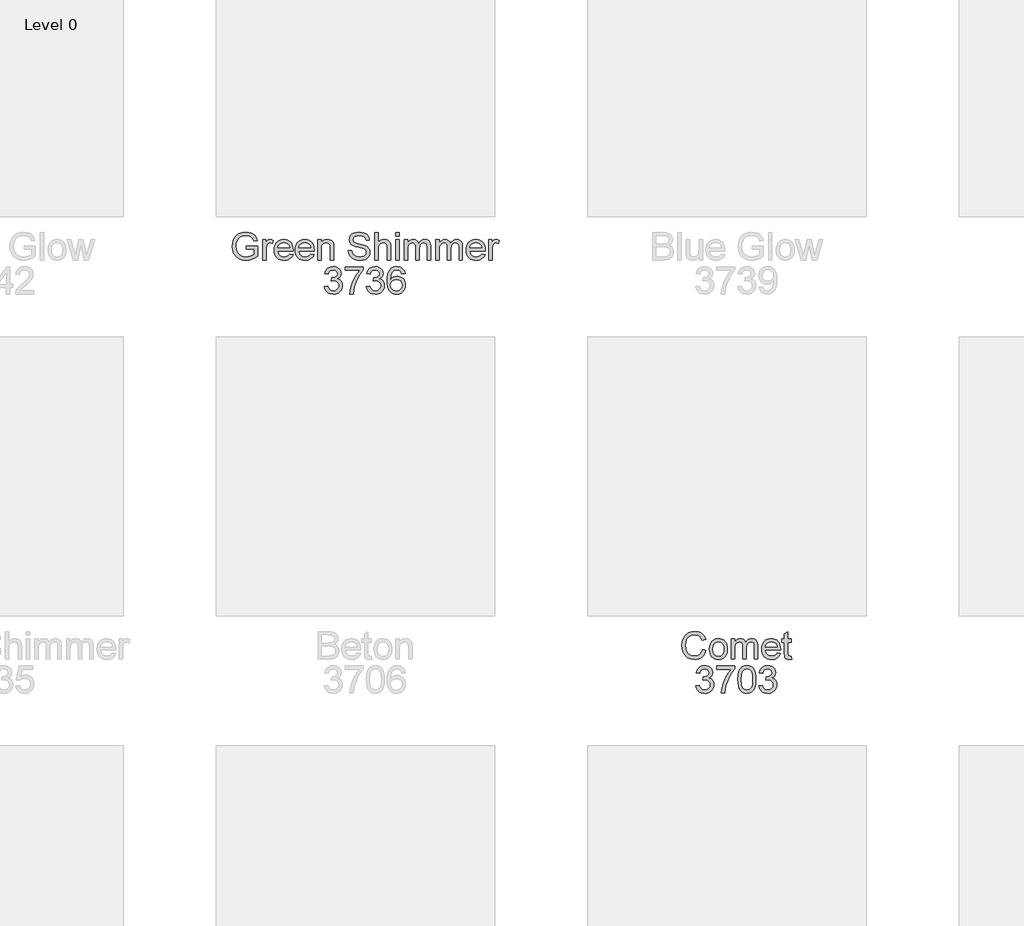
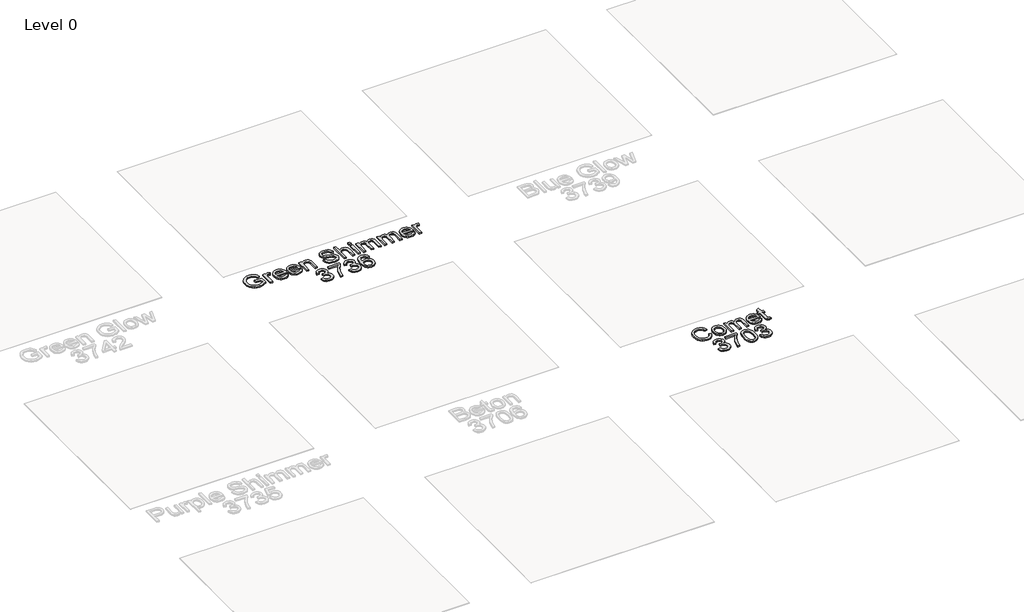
# One storey, part 10 of 14: 2 proxies.
"""IFC4 building model written with IfcOpenShell, lengths in millimetres."""

from ifc_helpers import new_model, si_unit, origin, origin_with_axes, place, context, project, spatial, polyline, outline, extrude, element, save

model = new_model("IFC4")

# Units and contexts
model_context = context("Model", 3, world=origin())
ifc_project = project(units=[si_unit("LENGTHUNIT", "METRE", prefix="MILLI")], contexts=[model_context])

# Site, building, storey
site = spatial("IfcSite", under=ifc_project)
building = spatial("IfcBuilding", under=site)
storey = spatial("IfcBuildingStorey", under=building, Name="Level 0", Elevation=0.0)

# Proxies
placement = place(None, origin())
element("IfcBuildingElementProxy", 1, Name="300mm Arial", ObjectType="300mm Arial", at=placement, inside=storey, context=model_context, shape_type="SweptSolid", body=[
    extrude(outline(polyline([(-1126.1906494, -2021.7884025), (-1126.1906494, -1984.8653255), (-1006.1906494, -1984.8653255), (-1006.1906494, -2095.2739794), (-1035.3523081, -2115.5564313), (-1065.4334379, -2130.1057102), (-1096.3619235, -2138.8677294), (-1128.0656494, -2141.7884025), (-1169.4869235, -2137.1459746), (-1206.9238225, -2123.2186909), (-1238.0235821, -2100.4933304), (-1260.4334379, -2069.4566717), (-1273.9821158, -2032.2271044), (-1278.4983417, -1990.9230179), (-1274.0001446, -1949.3214554), (-1260.5055533, -1910.6225371), (-1238.5734619, -1878.1615996), (-1208.7627648, -1855.2739794), (-1172.4526687, -1841.6982582), (-1131.0223802, -1837.1730179), (-1100.6077167, -1839.796215), (-1073.2579571, -1847.6658063), (-1050.2261062, -1860.2138832), (-1032.7651687, -1876.8725371), (-1019.8475004, -1898.4440515), (-1010.4454571, -1925.7307102), (-1044.4839187, -1935.3220563), (-1052.0830773, -1915.8599169), (-1061.322861, -1901.1754217), (-1073.5464187, -1890.1057102), (-1090.0968994, -1881.4879217), (-1109.8294715, -1875.9440515), (-1131.5993033, -1874.0960948), (-1157.0830773, -1876.0882823), (-1178.8709379, -1882.0648448), (-1196.8817552, -1891.2775852), (-1211.0343994, -1902.9783063), (-1230.0368033, -1931.4278255), (-1238.6906494, -1959.3004217), (-1241.5752648, -1989.4085948), (-1238.1047119, -2024.71809), (-1227.6930533, -2053.7715755), (-1210.6557937, -2076.3617198), (-1187.3084379, -2092.2811909), (-1159.9857215, -2101.7192919), (-1131.0223802, -2104.8653255), (-1105.4484619, -2102.4945323), (-1080.5055533, -2095.3821525), (-1058.8438946, -2085.5834746), (-1043.1137264, -2075.1537871), (-1043.1137264, -2021.7884025), (-1126.1906494, -2021.7884025)])), origin_with_axes(), (0.0, 0.0, 1.0), 20.0),
    extrude(outline(polyline([(-950.806034, -2137.1730179), (-950.806034, -1920.2499409), (-918.4983417, -1920.2499409), (-918.4983417, -1952.3412871), (-906.5632456, -1933.7355179), (-895.5656494, -1922.7739794), (-884.5319956, -1917.4194121), (-872.4887264, -1915.6345563), (-854.0993033, -1918.483114), (-835.4214187, -1927.0287871), (-847.7531494, -1960.1297486), (-860.7339187, -1954.4506621), (-873.7146879, -1952.5576332), (-884.7393273, -1954.3785467), (-894.5920917, -1959.8412871), (-902.5518273, -1968.5311909), (-907.8973802, -1980.0335948), (-912.3865629, -2000.6585948), (-913.8829571, -2023.1585948), (-913.8829571, -2137.1730179), (-950.806034, -2137.1730179)])), origin_with_axes(), (0.0, 0.0, 1.0), 20.0),
    extrude(outline(polyline([(-660.4694956, -2072.5576332), (-624.2675725, -2077.1730179), (-637.3114427, -2104.4506621), (-658.1257456, -2124.8412871), (-686.2417312, -2137.5516236), (-721.1906494, -2141.7884025), (-744.1008057, -2139.9607282), (-764.5139667, -2134.4777054), (-782.4301326, -2125.339334), (-797.8493033, -2112.545614), (-810.2486422, -2096.4526152), (-819.1053129, -2077.4164073), (-824.4193153, -2055.4369902), (-826.1906494, -2030.514364), (-824.4012864, -2004.7466356), (-819.0331975, -1982.0347967), (-810.0863826, -1962.3788472), (-797.5608417, -1945.7787871), (-782.182236, -1932.5906861), (-764.6762264, -1923.170614), (-745.0428129, -1917.5185707), (-723.2819956, -1915.6345563), (-702.2220497, -1917.5140635), (-683.1768273, -1923.1525852), (-666.1463285, -1932.5501212), (-651.1305533, -1945.7066717), (-638.8731915, -1962.2706741), (-630.1179331, -1981.8905659), (-624.864778, -2004.5663472), (-623.1137264, -2030.2980179), (-623.3300725, -2040.2499409), (-789.2675725, -2040.2499409), (-782.8763465, -2067.8881621), (-768.0295917, -2088.2066717), (-746.6023081, -2100.7006621), (-720.4694956, -2104.8653255), (-700.8180533, -2102.936239), (-684.2675725, -2097.1489794), (-670.8180533, -2087.1429698), (-660.4694956, -2072.5576332)]), holes=[polyline([(-789.2675725, -2003.326864), (-660.0368033, -2003.326864), (-665.0307937, -1983.8196525), (-674.8204571, -1969.8653255), (-696.3468994, -1956.8845563), (-723.4262264, -1952.5576332), (-748.3150485, -1956.0101573), (-768.8949764, -1966.3677294), (-783.2008658, -1982.5125611), (-789.2675725, -2003.326864)])]), origin_with_axes(), (0.0, 0.0, 1.0), 20.0),
    extrude(outline(polyline([(-434.3156494, -2072.5576332), (-398.1137264, -2077.1730179), (-411.1575965, -2104.4506621), (-431.9718994, -2124.8412871), (-460.087885, -2137.5516236), (-495.0368033, -2141.7884025), (-517.9469595, -2139.9607282), (-538.3601206, -2134.4777054), (-556.2762864, -2125.339334), (-571.6954571, -2112.545614), (-584.0947961, -2096.4526152), (-592.9514667, -2077.4164073), (-598.2654691, -2055.4369902), (-600.0368033, -2030.514364), (-598.2474403, -2004.7466356), (-592.8793514, -1982.0347967), (-583.9325364, -1962.3788472), (-571.4069956, -1945.7787871), (-556.0283898, -1932.5906861), (-538.5223802, -1923.170614), (-518.8889667, -1917.5185707), (-497.1281494, -1915.6345563), (-476.0682035, -1917.5140635), (-457.0229812, -1923.1525852), (-439.9924824, -1932.5501212), (-424.9767071, -1945.7066717), (-412.7193453, -1962.2706741), (-403.9640869, -1981.8905659), (-398.7109319, -2004.5663472), (-396.9598802, -2030.2980179), (-397.1762264, -2040.2499409), (-563.1137264, -2040.2499409), (-556.7225004, -2067.8881621), (-541.8757456, -2088.2066717), (-520.4484619, -2100.7006621), (-494.3156494, -2104.8653255), (-474.6642071, -2102.936239), (-458.1137264, -2097.1489794), (-444.6642071, -2087.1429698), (-434.3156494, -2072.5576332)]), holes=[polyline([(-563.1137264, -2003.326864), (-433.8829571, -2003.326864), (-438.8769475, -1983.8196525), (-448.666611, -1969.8653255), (-470.1930533, -1956.8845563), (-497.2723802, -1952.5576332), (-522.1612023, -1956.0101573), (-542.7411302, -1966.3677294), (-557.0470196, -1982.5125611), (-563.1137264, -2003.326864)])]), origin_with_axes(), (0.0, 0.0, 1.0), 20.0),
    extrude(outline(polyline([(-360.0368033, -2137.1730179), (-360.0368033, -1920.2499409), (-323.1137264, -1920.2499409), (-323.1137264, -1950.5384025), (-310.2862023, -1935.2679698), (-294.8805533, -1924.3605179), (-276.8967792, -1917.8160467), (-256.3348802, -1915.6345563), (-238.13476, -1917.3923688), (-221.4670917, -1922.6658063), (-207.5668514, -1930.7968159), (-197.6690148, -1941.1273448), (-186.5993033, -1968.2787871), (-184.6521879, -2003.9759025), (-184.6521879, -2137.1730179), (-221.5752648, -2137.1730179), (-221.5752648, -2008.951864), (-225.8300725, -1976.2835948), (-231.7164908, -1966.5570323), (-240.8661302, -1959.0119602), (-252.5938946, -1954.171215), (-266.2146879, -1952.5576332), (-287.8402889, -1956.1814313), (-306.274784, -1967.0528255), (-313.6418213, -1975.9275251), (-318.9039908, -1988.0564313), (-323.1137264, -2022.076864), (-323.1137264, -2137.1730179), (-360.0368033, -2137.1730179)])), origin_with_axes(), (0.0, 0.0, 1.0), 20.0),
    extrude(outline(polyline([(-27.729111, -2035.6345563), (9.193966, -2035.6345563), (13.4307448, -2056.12434), (21.0930044, -2072.5936909), (33.0461294, -2085.6646044), (50.1555044, -2095.9590755), (71.068966, -2102.638763), (94.4343506, -2104.8653255), (115.005264, -2103.1796284), (133.0160813, -2098.1225371), (147.6104323, -2090.1177294), (157.9319467, -2079.5888832), (164.0707688, -2067.5005419), (166.1170429, -2054.8172486), (164.584591, -2042.4584746), (159.9872352, -2031.7763832), (150.6482929, -2022.6628015), (134.8910813, -2015.0095563), (81.1290621, -2000.9109986), (45.8375958, -1991.5810707), (23.256466, -1982.701864), (4.8760573, -1970.279989), (-8.149784, -1955.2259025), (-15.9112023, -1937.8641236), (-18.4983417, -1918.5191717), (-15.2982215, -1896.8935707), (-5.697861, -1876.7283063), (10.0503361, -1859.6369602), (31.693966, -1847.233114), (57.6735333, -1839.6880419), (86.4295429, -1837.1730179), (117.583389, -1839.8052294), (144.8430044, -1847.701864), (167.2348313, -1860.7006621), (183.7853121, -1878.639364), (194.2600717, -1900.4001813), (198.4247352, -1924.8653255), (161.5016583, -1924.8653255), (154.7228121, -1902.8340755), (140.5881967, -1886.9326332), (118.5028602, -1877.3052294), (87.8718506, -1874.0960948), (56.5196871, -1877.2691717), (35.0112736, -1886.7884025), (22.5713698, -1900.7968159), (18.4247352, -1917.4374409), (21.3634371, -1931.6261429), (30.1795429, -1943.0384025), (51.020889, -1953.2427294), (90.4680044, -1963.6634025), (155.8045429, -1982.1970563), (176.8532208, -1995.592489), (191.537716, -2012.1249409), (200.1645188, -2031.6141236), (203.0401198, -2053.8797486), (199.7318265, -2076.6411669), (189.8069467, -2098.0504217), (173.6711294, -2116.4759025), (151.7300236, -2130.2859986), (125.3448073, -2138.9128015), (95.8766583, -2141.7884025), (59.7017785, -2138.6874409), (29.927139, -2129.3845563), (6.2101919, -2113.8436909), (-11.791611, -2092.0287871), (-23.3481014, -2065.4542679), (-27.729111, -2035.6345563)])), origin_with_axes(), (0.0, 0.0, 1.0), 20.0),
    extrude(outline(polyline([(253.8093506, -2137.1730179), (253.8093506, -1841.7884025), (290.7324275, -1841.7884025), (290.7324275, -1950.3941717), (304.294627, -1935.18684), (319.5244948, -1924.3244602), (336.4220309, -1917.8070323), (354.9872352, -1915.6345563), (377.2889179, -1918.0053496), (396.4535813, -1925.1177294), (411.5437256, -1936.4128015), (421.6218506, -1951.3316717), (427.3009371, -1971.8304698), (429.193966, -1999.8653255), (429.193966, -2137.1730179), (392.270889, -2137.1730179), (392.270889, -2003.6874409), (389.3321871, -1980.5744602), (380.5160813, -1964.7451332), (366.3093506, -1955.6045082), (347.1987736, -1952.5576332), (331.5948073, -1954.6129217), (316.9463698, -1960.7787871), (304.8129563, -1970.4602775), (296.7540621, -1983.0624409), (292.2378361, -1999.811239), (290.7324275, -2021.9326332), (290.7324275, -2137.1730179), (253.8093506, -2137.1730179)])), origin_with_axes(), (0.0, 0.0, 1.0), 20.0),
    extrude(outline(polyline([(479.9631967, -1878.7114794), (479.9631967, -1841.7884025), (516.8862736, -1841.7884025), (516.8862736, -1878.7114794), (479.9631967, -1878.7114794)])), origin_with_axes(), (0.0, 0.0, 1.0), 20.0),
    extrude(outline(polyline([(479.9631967, -2137.1730179), (479.9631967, -1920.2499409), (516.8862736, -1920.2499409), (516.8862736, -2137.1730179), (479.9631967, -2137.1730179)])), origin_with_axes(), (0.0, 0.0, 1.0), 20.0),
    extrude(outline(polyline([(572.270889, -2137.1730179), (572.270889, -1920.2499409), (609.193966, -1920.2499409), (609.193966, -1955.9470563), (620.2997352, -1939.5498207), (634.5785813, -1926.7042679), (651.5437256, -1918.4019842), (670.708389, -1915.6345563), (691.2432448, -1918.4560707), (707.7035813, -1926.920614), (719.9992544, -1940.4692919), (728.0401198, -1958.5432102), (741.4986535, -1939.7706741), (756.850216, -1926.3617198), (774.0948073, -1918.3163472), (793.2324275, -1915.6345563), (820.9878361, -1920.0966957), (841.5136775, -1933.483114), (854.1969708, -1956.154388), (858.4247352, -1988.4710948), (858.4247352, -2137.1730179), (821.5016583, -2137.1730179), (821.5016583, -2004.3364794), (818.0761775, -1973.5071525), (813.2624756, -1965.0065515), (805.6723313, -1958.326864), (795.9097111, -1953.9999409), (784.5785813, -1952.5576332), (764.5755765, -1956.2535467), (748.2684852, -1967.3412871), (737.4241342, -1986.5780659), (733.8093506, -2014.7210948), (733.8093506, -2137.1730179), (696.8862736, -2137.1730179), (696.8862736, -2000.2259025), (694.7498554, -1979.3484986), (688.3406006, -1964.4566717), (677.0635573, -1955.5323929), (660.3237736, -1952.5576332), (646.099014, -1954.5408063), (632.9920429, -1960.4903255), (622.1747352, -1970.2619602), (614.818966, -1983.7114794), (610.600216, -2002.3713352), (609.193966, -2027.7739794), (609.193966, -2137.1730179), (572.270889, -2137.1730179)])), origin_with_axes(), (0.0, 0.0, 1.0), 20.0),
    extrude(outline(polyline([(913.8093506, -2137.1730179), (913.8093506, -1920.2499409), (950.7324275, -1920.2499409), (950.7324275, -1955.9470563), (961.8381967, -1939.5498207), (976.1170429, -1926.7042679), (993.0821871, -1918.4019842), (1012.2468506, -1915.6345563), (1032.7817063, -1918.4560707), (1049.2420429, -1926.920614), (1061.537716, -1940.4692919), (1069.5785813, -1958.5432102), (1083.037115, -1939.7706741), (1098.3886775, -1926.3617198), (1115.6332688, -1918.3163472), (1134.770889, -1915.6345563), (1162.5262977, -1920.0966957), (1183.052139, -1933.483114), (1195.7354323, -1956.154388), (1199.9631967, -1988.4710948), (1199.9631967, -2137.1730179), (1163.0401198, -2137.1730179), (1163.0401198, -2004.3364794), (1159.614639, -1973.5071525), (1154.8009371, -1965.0065515), (1147.2107929, -1958.326864), (1137.4481727, -1953.9999409), (1126.1170429, -1952.5576332), (1106.1140381, -1956.2535467), (1089.8069467, -1967.3412871), (1078.9625958, -1986.5780659), (1075.3478121, -2014.7210948), (1075.3478121, -2137.1730179), (1038.4247352, -2137.1730179), (1038.4247352, -2000.2259025), (1036.2883169, -1979.3484986), (1029.8790621, -1964.4566717), (1018.6020188, -1955.5323929), (1001.8622352, -1952.5576332), (987.6374756, -1954.5408063), (974.5305044, -1960.4903255), (963.7131967, -1970.2619602), (956.3574275, -1983.7114794), (952.1386775, -2002.3713352), (950.7324275, -2027.7739794), (950.7324275, -2137.1730179), (913.8093506, -2137.1730179)])), origin_with_axes(), (0.0, 0.0, 1.0), 20.0),
    extrude(outline(polyline([(1407.2228121, -2072.5576332), (1443.4247352, -2077.1730179), (1430.380865, -2104.4506621), (1409.5665621, -2124.8412871), (1381.4505765, -2137.5516236), (1346.5016583, -2141.7884025), (1323.591502, -2139.9607282), (1303.178341, -2134.4777054), (1285.2621751, -2125.339334), (1269.8430044, -2112.545614), (1257.4436655, -2096.4526152), (1248.5869948, -2077.4164073), (1243.2729924, -2055.4369902), (1241.5016583, -2030.514364), (1243.2910212, -2004.7466356), (1248.6591102, -1982.0347967), (1257.6059251, -1962.3788472), (1270.131466, -1945.7787871), (1285.5100717, -1932.5906861), (1303.0160813, -1923.170614), (1322.6494948, -1917.5185707), (1344.4103121, -1915.6345563), (1365.470258, -1917.5140635), (1384.5154804, -1923.1525852), (1401.5459792, -1932.5501212), (1416.5617544, -1945.7066717), (1428.8191162, -1962.2706741), (1437.5743746, -1981.8905659), (1442.8275297, -2004.5663472), (1444.5785813, -2030.2980179), (1444.3622352, -2040.2499409), (1278.4247352, -2040.2499409), (1284.8159611, -2067.8881621), (1299.662716, -2088.2066717), (1321.0899996, -2100.7006621), (1347.2228121, -2104.8653255), (1366.8742544, -2102.936239), (1383.4247352, -2097.1489794), (1396.8742544, -2087.1429698), (1407.2228121, -2072.5576332)]), holes=[polyline([(1278.4247352, -2003.326864), (1407.6555044, -2003.326864), (1402.661514, -1983.8196525), (1392.8718506, -1969.8653255), (1371.3454083, -1956.8845563), (1344.2660813, -1952.5576332), (1319.3772592, -1956.0101573), (1298.7973313, -1966.3677294), (1284.4914419, -1982.5125611), (1278.4247352, -2003.326864)])]), origin_with_axes(), (0.0, 0.0, 1.0), 20.0),
    extrude(outline(polyline([(1481.5016583, -2137.1730179), (1481.5016583, -1920.2499409), (1513.8093506, -1920.2499409), (1513.8093506, -1952.3412871), (1525.7444467, -1933.7355179), (1536.7420429, -1922.7739794), (1547.7756967, -1917.4194121), (1559.818966, -1915.6345563), (1578.208389, -1918.483114), (1596.8862736, -1927.0287871), (1584.5545429, -1960.1297486), (1571.5737736, -1954.4506621), (1558.5930044, -1952.5576332), (1547.568365, -1954.3785467), (1537.7156006, -1959.8412871), (1529.755865, -1968.5311909), (1524.4103121, -1980.0335948), (1519.9211294, -2000.6585948), (1518.4247352, -2023.1585948), (1518.4247352, -2137.1730179), (1481.5016583, -2137.1730179)])), origin_with_axes(), (0.0, 0.0, 1.0), 20.0),
    extrude(outline(polyline([(-286.1906494, -2423.326864), (-249.2675725, -2418.7114794), (-241.0013465, -2441.9146044), (-228.8949764, -2457.5816717), (-212.35351, -2466.5059505), (-190.7819956, -2469.4807102), (-165.4694956, -2465.3881621), (-145.9262264, -2453.1105179), (-133.432236, -2434.7932102), (-129.2675725, -2412.5816717), (-133.3961783, -2391.4969361), (-145.7819956, -2374.3965755), (-164.5319956, -2363.0654457), (-187.7531494, -2359.2884025), (-213.6425725, -2363.326864), (-209.5319956, -2326.4037871), (-203.618534, -2326.8364794), (-181.4971398, -2324.186239), (-161.7194956, -2316.2355179), (-147.7651687, -2302.7859986), (-143.1137264, -2283.639364), (-146.4851206, -2267.6928496), (-156.5993033, -2254.7571525), (-172.0319956, -2246.1844361), (-191.3589187, -2243.326864), (-210.7218994, -2246.2114794), (-226.5512264, -2254.8653255), (-238.1077167, -2269.2884025), (-244.6521879, -2289.4807102), (-281.5752648, -2284.8653255), (-270.7038706, -2251.7102775), (-251.3589187, -2226.9566717), (-224.8925725, -2211.5420082), (-192.6569956, -2206.4037871), (-169.4448562, -2208.93684), (-148.1257456, -2216.5359986), (-130.150986, -2228.5251813), (-116.9718994, -2244.2283063), (-108.8859619, -2262.3202534), (-106.1906494, -2281.4759025), (-108.7507456, -2299.3244602), (-116.431034, -2315.514364), (-129.1233417, -2329.3064313), (-146.7194956, -2339.9614794), (-123.6065148, -2349.3004217), (-106.479111, -2365.201864), (-95.8781494, -2386.8004217), (-92.3444956, -2413.2307102), (-94.1113225, -2431.9626813), (-99.4118033, -2449.2162871), (-108.2459379, -2464.9915275), (-120.6137264, -2479.2884025), (-135.6813345, -2491.1513832), (-152.6149283, -2499.6249409), (-171.4145076, -2504.7090755), (-192.0800725, -2506.4037871), (-227.7771879, -2500.6165275), (-243.1377648, -2493.3824529), (-256.8396879, -2483.2547486), (-268.3285701, -2470.8283664), (-277.0500244, -2456.6982582), (-286.1906494, -2423.326864)])), origin_with_axes(), (0.0, 0.0, 1.0), 20.0),
    extrude(outline(polyline([(-60.0368033, -2247.9422486), (-60.0368033, -2211.0191717), (133.8093506, -2211.0191717), (133.8093506, -2240.8749409), (106.1801438, -2275.841888), (78.8213698, -2320.3100371), (54.6897592, -2370.2228977), (36.7420429, -2421.5239794), (27.943966, -2459.9073929), (23.0401198, -2501.7884025), (-13.8829571, -2501.7884025), (-9.8895677, -2463.7295082), (0.7925236, -2418.4951332), (17.8748554, -2370.5474169), (41.068966, -2324.3484986), (68.1482929, -2282.5846765), (96.8862736, -2247.9422486), (-60.0368033, -2247.9422486)])), origin_with_axes(), (0.0, 0.0, 1.0), 20.0),
    extrude(outline(polyline([(166.1170429, -2423.326864), (203.0401198, -2418.7114794), (211.3063458, -2441.9146044), (223.412716, -2457.5816717), (239.9541823, -2466.5059505), (261.5256967, -2469.4807102), (286.8381967, -2465.3881621), (306.381466, -2453.1105179), (318.8754563, -2434.7932102), (323.0401198, -2412.5816717), (318.911514, -2391.4969361), (306.5256967, -2374.3965755), (287.7756967, -2363.0654457), (264.5545429, -2359.2884025), (238.6651198, -2363.326864), (242.7756967, -2326.4037871), (248.6891583, -2326.8364794), (270.8105525, -2324.186239), (290.5881967, -2316.2355179), (304.5425236, -2302.7859986), (309.193966, -2283.639364), (305.8225717, -2267.6928496), (295.708389, -2254.7571525), (280.2756967, -2246.1844361), (260.9487736, -2243.326864), (241.5857929, -2246.2114794), (225.756466, -2254.8653255), (214.1999756, -2269.2884025), (207.6555044, -2289.4807102), (170.7324275, -2284.8653255), (181.6038217, -2251.7102775), (200.9487736, -2226.9566717), (227.4151198, -2211.5420082), (259.6506967, -2206.4037871), (282.8628361, -2208.93684), (304.1819467, -2216.5359986), (322.1567063, -2228.5251813), (335.3357929, -2244.2283063), (343.4217304, -2262.3202534), (346.1170429, -2281.4759025), (343.5569467, -2299.3244602), (335.8766583, -2315.514364), (323.1843506, -2329.3064313), (305.5881967, -2339.9614794), (328.7011775, -2349.3004217), (345.8285813, -2365.201864), (356.4295429, -2386.8004217), (359.9631967, -2413.2307102), (358.1963698, -2431.9626813), (352.895889, -2449.2162871), (344.0617544, -2464.9915275), (331.693966, -2479.2884025), (316.6263578, -2491.1513832), (299.692764, -2499.6249409), (280.8931847, -2504.7090755), (260.2276198, -2506.4037871), (224.5305044, -2500.6165275), (209.1699275, -2493.3824529), (195.4680044, -2483.2547486), (183.9791222, -2470.8283664), (175.2576679, -2456.6982582), (166.1170429, -2423.326864)])), origin_with_axes(), (0.0, 0.0, 1.0), 20.0),
    extrude(outline(polyline([(581.5016583, -2284.8653255), (544.5785813, -2289.4807102), (538.6290621, -2271.1814313), (530.5881967, -2258.6874409), (513.8393986, -2247.1670082), (493.5930044, -2243.326864), (476.4295429, -2245.5624409), (460.2756967, -2252.2691717), (446.4024996, -2266.3947727), (435.0713698, -2285.8388832), (427.4181246, -2313.341888), (424.5785813, -2351.6441717), (439.3892785, -2334.3635227), (457.1386775, -2322.1850371), (476.8351919, -2314.9644842), (497.4872352, -2312.5576332), (515.2276198, -2314.2027654), (531.5978121, -2319.1381621), (546.5978121, -2327.3638231), (560.2276198, -2338.8797486), (571.5542424, -2353.0008424), (579.6446871, -2369.0420082), (584.4989539, -2387.0032462), (586.1170429, -2406.8845563), (583.0701679, -2433.3238592), (573.9295429, -2457.8340755), (559.4523794, -2478.6213352), (540.395889, -2493.8917679), (517.6254563, -2503.2757823), (492.006466, -2506.4037871), (469.9954984, -2504.3304698), (450.1164419, -2498.1105179), (432.3692965, -2487.7439313), (416.7540621, -2473.2307102), (404.0234431, -2453.9578736), (394.9301438, -2429.3124409), (389.4741643, -2399.2944121), (387.6555044, -2363.9037871), (389.6747352, -2324.2268039), (395.7324275, -2290.3641236), (405.8285813, -2262.3157462), (419.9631967, -2240.0816717), (435.2832087, -2225.3475972), (453.0461294, -2214.8232582), (473.2519587, -2208.5086549), (495.9006967, -2206.4037871), (528.2985333, -2211.6141236), (554.2420429, -2227.2451332), (572.4151198, -2252.0708544), (581.5016583, -2284.8653255)]), holes=[polyline([(424.5785813, -2406.3076332), (426.7149996, -2422.6688111), (433.1242544, -2438.2908063), (443.0761775, -2451.7222967), (455.8406006, -2461.5119602), (471.2462496, -2467.4885227), (489.1218506, -2469.4807102), (513.4878361, -2465.3521044), (532.6434852, -2452.9662871), (545.0563458, -2433.4951332), (549.193966, -2408.1105179), (545.1104323, -2383.7445323), (532.8598313, -2365.1658063), (513.3796631, -2353.4019842), (487.6074275, -2349.4807102), (463.2774996, -2353.4019842), (442.9319467, -2365.1658063), (429.1669227, -2383.2938111), (424.5785813, -2406.3076332)])]), origin_with_axes(), (0.0, 0.0, 1.0), 20.0),
])
element("IfcBuildingElementProxy", 2, Name="300mm Arial", ObjectType="300mm Arial", at=placement, inside=storey, context=model_context, shape_type="SweptSolid", body=[
    extrude(outline(polyline([(3785.3478121, -6332.1730179), (3822.270889, -6341.6922486), (3814.9646991, -6364.6542378), (3805.2336294, -6384.71809), (3793.0776799, -6401.8838051), (3778.4968506, -6416.1513832), (3761.8201679, -6427.3675792), (3743.3766583, -6435.3791477), (3723.1663217, -6440.1860888), (3701.1891583, -6441.7884025), (3658.3616342, -6436.9386429), (3624.350216, -6422.389364), (3598.2805044, -6398.6453736), (3579.2781006, -6366.2114794), (3567.6765381, -6328.0804698), (3563.8093506, -6287.2451332), (3568.1813458, -6244.1742198), (3581.2973313, -6206.9807102), (3602.4722111, -6176.8454938), (3631.020889, -6154.9494602), (3664.8790621, -6141.6171284), (3701.9824275, -6137.1730179), (3742.4662015, -6142.9242198), (3760.0781306, -6150.1132222), (3775.9367544, -6160.1778255), (3789.7806547, -6172.8521044), (3801.3484131, -6187.8701332), (3817.6555044, -6224.9374409), (3780.7324275, -6233.7355179), (3767.9319467, -6206.8094361), (3750.443966, -6188.3388832), (3728.052139, -6177.6567919), (3700.5401198, -6174.0960948), (3668.8273794, -6178.0444121), (3642.7756967, -6189.889364), (3623.0070669, -6208.3869602), (3610.1434852, -6232.2932102), (3603.0851919, -6259.3184505), (3600.7324275, -6287.1730179), (3603.5178842, -6321.2835948), (3611.8742544, -6350.7787871), (3626.1170429, -6374.5317919), (3646.5617544, -6391.4158063), (3671.0719708, -6401.5029457), (3697.5112736, -6404.8653255), (3728.3315861, -6400.2859986), (3754.0136775, -6386.5480179), (3773.4037015, -6363.795614), (3785.3478121, -6332.1730179)])), origin_with_axes(), (0.0, 0.0, 1.0), 20.0),
    extrude(outline(polyline([(3859.193966, -6328.7114794), (3861.1906607, -6300.6180299), (3867.1807448, -6276.4097967), (3877.1642184, -6256.0867799), (3891.1410813, -6239.6489794), (3905.2125958, -6229.1426693), (3920.7444467, -6221.6381621), (3937.7366342, -6217.1354578), (3956.1891583, -6215.6345563), (3976.5595008, -6217.4622306), (3994.9782208, -6222.9452534), (4011.4453181, -6232.0836248), (4025.9607929, -6244.8773448), (4037.8079984, -6260.893721), (4046.2702881, -6279.7000611), (4051.3476619, -6301.2963652), (4053.0401198, -6325.6826332), (4050.0473313, -6362.9843159), (4041.068966, -6391.3797486), (4026.3664419, -6412.6447727), (4006.2011775, -6428.5552294), (3982.2498554, -6438.4801092), (3956.1891583, -6441.7884025), (3935.5213398, -6439.967489), (3916.9313458, -6434.5047486), (3900.4191763, -6425.4001813), (3885.9848313, -6412.6537871), (3874.2638277, -6396.4819121), (3865.8916823, -6377.1009025), (3860.868395, -6354.5107582), (3859.193966, -6328.7114794)]), holes=[polyline([(3896.1170429, -6328.639364), (3900.3898794, -6362.0558304), (3913.208389, -6385.8629217), (3932.4992544, -6400.1147246), (3956.1891583, -6404.8653255), (3979.770889, -6400.0876813), (3999.0256967, -6385.7547486), (4011.8442063, -6361.6321525), (4016.1170429, -6327.4855179), (4011.8171631, -6295.0426092), (3998.9175236, -6271.5600371), (3979.6356727, -6257.3082342), (3956.1891583, -6252.5576332), (3932.4992544, -6257.2902054), (3913.208389, -6271.4879217), (3900.3898794, -6295.2409265), (3896.1170429, -6328.639364)])]), origin_with_axes(), (0.0, 0.0, 1.0), 20.0),
    extrude(outline(polyline([(4094.5785813, -6437.1730179), (4094.5785813, -6220.2499409), (4131.5016583, -6220.2499409), (4131.5016583, -6255.9470563), (4142.6074275, -6239.5498207), (4156.8862736, -6226.7042679), (4173.8514179, -6218.4019842), (4193.0160813, -6215.6345563), (4213.5509371, -6218.4560707), (4230.0112736, -6226.920614), (4242.3069467, -6240.4692919), (4250.3478121, -6258.5432102), (4263.8063458, -6239.7706741), (4279.1579083, -6226.3617198), (4296.4024996, -6218.3163472), (4315.5401198, -6215.6345563), (4343.2955285, -6220.0966957), (4363.8213698, -6233.483114), (4376.5046631, -6256.154388), (4380.7324275, -6288.4710948), (4380.7324275, -6437.1730179), (4343.8093506, -6437.1730179), (4343.8093506, -6304.3364794), (4340.3838698, -6273.5071525), (4335.5701679, -6265.0065515), (4327.9800236, -6258.326864), (4318.2174035, -6253.9999409), (4306.8862736, -6252.5576332), (4286.8832688, -6256.2535467), (4270.5761775, -6267.3412871), (4259.7318265, -6286.5780659), (4256.1170429, -6314.7210948), (4256.1170429, -6437.1730179), (4219.193966, -6437.1730179), (4219.193966, -6300.2259025), (4217.0575477, -6279.3484986), (4210.6482929, -6264.4566717), (4199.3712496, -6255.5323929), (4182.631466, -6252.5576332), (4168.4067063, -6254.5408063), (4155.2997352, -6260.4903255), (4144.4824275, -6270.2619602), (4137.1266583, -6283.7114794), (4132.9079083, -6302.3713352), (4131.5016583, -6327.7739794), (4131.5016583, -6437.1730179), (4094.5785813, -6437.1730179)])), origin_with_axes(), (0.0, 0.0, 1.0), 20.0),
    extrude(outline(polyline([(4587.9920429, -6372.5576332), (4624.193966, -6377.1730179), (4611.1500958, -6404.4506621), (4590.3357929, -6424.8412871), (4562.2198073, -6437.5516236), (4527.270889, -6441.7884025), (4504.3607328, -6439.9607282), (4483.9475717, -6434.4777054), (4466.0314059, -6425.339334), (4450.6122352, -6412.545614), (4438.2128962, -6396.4526152), (4429.3562256, -6377.4164073), (4424.0422232, -6355.4369902), (4422.270889, -6330.514364), (4424.060252, -6304.7466356), (4429.428341, -6282.0347967), (4438.3751559, -6262.3788472), (4450.9006967, -6245.7787871), (4466.2793025, -6232.5906861), (4483.7853121, -6223.170614), (4503.4187256, -6217.5185707), (4525.1795429, -6215.6345563), (4546.2394888, -6217.5140635), (4565.2847111, -6223.1525852), (4582.3152099, -6232.5501212), (4597.3309852, -6245.7066717), (4609.588347, -6262.2706741), (4618.3436054, -6281.8905659), (4623.5967604, -6304.5663472), (4625.3478121, -6330.2980179), (4625.131466, -6340.2499409), (4459.193966, -6340.2499409), (4465.5851919, -6367.8881621), (4480.4319467, -6388.2066717), (4501.8592304, -6400.7006621), (4527.9920429, -6404.8653255), (4547.6434852, -6402.936239), (4564.193966, -6397.1489794), (4577.6434852, -6387.1429698), (4587.9920429, -6372.5576332)]), holes=[polyline([(4459.193966, -6303.326864), (4588.4247352, -6303.326864), (4583.4307448, -6283.8196525), (4573.6410813, -6269.8653255), (4552.114639, -6256.8845563), (4525.0353121, -6252.5576332), (4500.14649, -6256.0101573), (4479.5665621, -6266.3677294), (4465.2606727, -6282.5125611), (4459.193966, -6303.326864)])]), origin_with_axes(), (0.0, 0.0, 1.0), 20.0),
    extrude(outline(polyline([(4740.7324275, -6406.3797486), (4745.3478121, -6438.2547486), (4717.7276198, -6441.7884025), (4700.005264, -6440.2559505), (4686.7901198, -6435.6585948), (4677.4511775, -6428.5732582), (4671.3574275, -6419.576864), (4668.0040621, -6404.1261429), (4666.8862736, -6377.6778255), (4666.8862736, -6257.1730179), (4639.193966, -6257.1730179), (4639.193966, -6220.2499409), (4666.8862736, -6220.2499409), (4666.8862736, -6167.5335948), (4703.8093506, -6145.826864), (4703.8093506, -6220.2499409), (4740.7324275, -6220.2499409), (4740.7324275, -6257.1730179), (4703.8093506, -6257.1730179), (4703.8093506, -6376.5960948), (4705.756466, -6395.6345563), (4712.0665621, -6402.3773448), (4724.6506967, -6404.8653255), (4740.7324275, -6406.3797486)])), origin_with_axes(), (0.0, 0.0, 1.0), 20.0),
    extrude(outline(polyline([(3713.8093506, -6723.326864), (3750.7324275, -6718.7114794), (3758.9986535, -6741.9146044), (3771.1050236, -6757.5816717), (3787.64649, -6766.5059505), (3809.2180044, -6769.4807102), (3834.5305044, -6765.3881621), (3854.0737736, -6753.1105179), (3866.567764, -6734.7932102), (3870.7324275, -6712.5816717), (3866.6038217, -6691.4969361), (3854.2180044, -6674.3965755), (3835.4680044, -6663.0654457), (3812.2468506, -6659.2884025), (3786.3574275, -6663.326864), (3790.4680044, -6626.4037871), (3796.381466, -6626.8364794), (3818.5028602, -6624.186239), (3838.2805044, -6616.2355179), (3852.2348313, -6602.7859986), (3856.8862736, -6583.639364), (3853.5148794, -6567.6928496), (3843.4006967, -6554.7571525), (3827.9680044, -6546.1844361), (3808.6410813, -6543.326864), (3789.2781006, -6546.2114794), (3773.4487736, -6554.8653255), (3761.8922833, -6569.2884025), (3755.3478121, -6589.4807102), (3718.4247352, -6584.8653255), (3729.2961294, -6551.7102775), (3748.6410813, -6526.9566717), (3775.1074275, -6511.5420082), (3807.3430044, -6506.4037871), (3830.5551438, -6508.93684), (3851.8742544, -6516.5359986), (3869.849014, -6528.5251813), (3883.0281006, -6544.2283063), (3891.1140381, -6562.3202534), (3893.8093506, -6581.4759025), (3891.2492544, -6599.3244602), (3883.568966, -6615.514364), (3870.8766583, -6629.3064313), (3853.2805044, -6639.9614794), (3876.3934852, -6649.3004217), (3893.520889, -6665.201864), (3904.1218506, -6686.8004217), (3907.6555044, -6713.2307102), (3905.8886775, -6731.9626813), (3900.5881967, -6749.2162871), (3891.7540621, -6764.9915275), (3879.3862736, -6779.2884025), (3864.3186655, -6791.1513832), (3847.3850717, -6799.6249409), (3828.5854924, -6804.7090755), (3807.9199275, -6806.4037871), (3772.2228121, -6800.6165275), (3756.8622352, -6793.3824529), (3743.1603121, -6783.2547486), (3731.6714299, -6770.8283664), (3722.9499756, -6756.6982582), (3713.8093506, -6723.326864)])), origin_with_axes(), (0.0, 0.0, 1.0), 20.0),
    extrude(outline(polyline([(3939.9631967, -6547.9422486), (3939.9631967, -6511.0191717), (4133.8093506, -6511.0191717), (4133.8093506, -6540.8749409), (4106.1801438, -6575.841888), (4078.8213698, -6620.3100371), (4054.6897592, -6670.2228977), (4036.7420429, -6721.5239794), (4027.943966, -6759.9073929), (4023.0401198, -6801.7884025), (3986.1170429, -6801.7884025), (3990.1104323, -6763.7295082), (4000.7925236, -6718.4951332), (4017.8748554, -6670.5474169), (4041.068966, -6624.3484986), (4068.1482929, -6582.5846765), (4096.8862736, -6547.9422486), (3939.9631967, -6547.9422486)])), origin_with_axes(), (0.0, 0.0, 1.0), 20.0),
    extrude(outline(polyline([(4166.1170429, -6656.4759025), (4168.8303842, -6609.1952534), (4176.9704083, -6571.4879217), (4190.4559852, -6542.7769842), (4209.2059852, -6522.4855179), (4233.3556246, -6510.4242198), (4263.0401198, -6506.4037871), (4285.7925236, -6508.7835948), (4306.1651198, -6515.9230179), (4323.2023794, -6527.5426092), (4335.9487736, -6543.3629217), (4345.5761775, -6563.248739), (4353.256466, -6587.0648448), (4358.286514, -6617.3082342), (4359.9631967, -6656.4759025), (4357.2768986, -6703.4861188), (4349.2180044, -6741.1033063), (4335.8135573, -6769.8412871), (4317.0906006, -6790.2138832), (4292.8868746, -6802.3563111), (4263.0401198, -6806.4037871), (4242.7035813, -6804.6459746), (4224.6747352, -6799.3725371), (4208.9535813, -6790.5834746), (4195.5401198, -6778.2787871), (4182.6675236, -6756.0356981), (4173.4728121, -6728.3208544), (4167.9559852, -6695.1342558), (4166.1170429, -6656.4759025)]), holes=[polyline([(4203.0401198, -6656.4037871), (4207.3670429, -6714.483715), (4212.7756967, -6734.3492498), (4220.3478121, -6748.0984986), (4239.6747352, -6764.1351573), (4263.0401198, -6769.4807102), (4286.4055044, -6764.1171284), (4305.7324275, -6748.0263832), (4313.3045429, -6734.2545984), (4318.7131967, -6714.3935707), (4323.0401198, -6656.4037871), (4318.8574275, -6599.6309505), (4313.6290621, -6579.8307703), (4306.3093506, -6565.7547486), (4287.0184852, -6548.9338352), (4262.6074275, -6543.326864), (4239.4944467, -6548.2667679), (4220.9247352, -6563.0864794), (4213.100216, -6578.4109986), (4207.5112736, -6599.0720563), (4203.0401198, -6656.4037871)])]), origin_with_axes(), (0.0, 0.0, 1.0), 20.0),
    extrude(outline(polyline([(4392.270889, -6723.326864), (4429.193966, -6718.7114794), (4437.4601919, -6741.9146044), (4449.5665621, -6757.5816717), (4466.1080285, -6766.5059505), (4487.6795429, -6769.4807102), (4512.9920429, -6765.3881621), (4532.5353121, -6753.1105179), (4545.0293025, -6734.7932102), (4549.193966, -6712.5816717), (4545.0653602, -6691.4969361), (4532.6795429, -6674.3965755), (4513.9295429, -6663.0654457), (4490.708389, -6659.2884025), (4464.818966, -6663.326864), (4468.9295429, -6626.4037871), (4474.8430044, -6626.8364794), (4496.9643986, -6624.186239), (4516.7420429, -6616.2355179), (4530.6963698, -6602.7859986), (4535.3478121, -6583.639364), (4531.9764179, -6567.6928496), (4521.8622352, -6554.7571525), (4506.4295429, -6546.1844361), (4487.1026198, -6543.326864), (4467.739639, -6546.2114794), (4451.9103121, -6554.8653255), (4440.3538217, -6569.2884025), (4433.8093506, -6589.4807102), (4396.8862736, -6584.8653255), (4407.7576679, -6551.7102775), (4427.1026198, -6526.9566717), (4453.568966, -6511.5420082), (4485.8045429, -6506.4037871), (4509.0166823, -6508.93684), (4530.3357929, -6516.5359986), (4548.3105525, -6528.5251813), (4561.489639, -6544.2283063), (4569.5755765, -6562.3202534), (4572.270889, -6581.4759025), (4569.7107929, -6599.3244602), (4562.0305044, -6615.514364), (4549.3381967, -6629.3064313), (4531.7420429, -6639.9614794), (4554.8550236, -6649.3004217), (4571.9824275, -6665.201864), (4582.583389, -6686.8004217), (4586.1170429, -6713.2307102), (4584.350216, -6731.9626813), (4579.0497352, -6749.2162871), (4570.2156006, -6764.9915275), (4557.8478121, -6779.2884025), (4542.7802039, -6791.1513832), (4525.8466102, -6799.6249409), (4507.0470309, -6804.7090755), (4486.381466, -6806.4037871), (4450.6843506, -6800.6165275), (4435.3237736, -6793.3824529), (4421.6218506, -6783.2547486), (4410.1329684, -6770.8283664), (4401.411514, -6756.6982582), (4392.270889, -6723.326864)])), origin_with_axes(), (0.0, 0.0, 1.0), 20.0),
])

save(model, "model.ifc")
